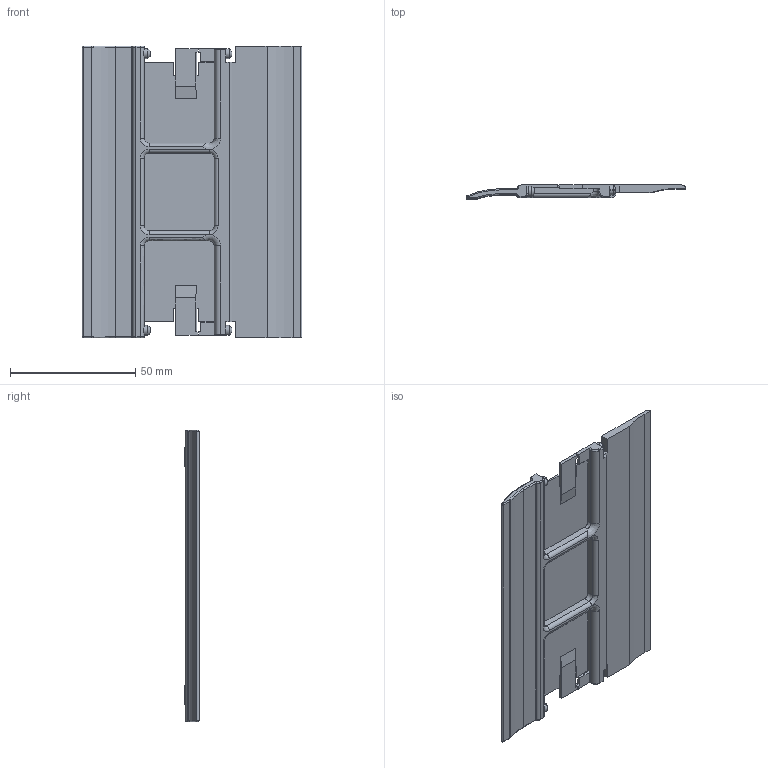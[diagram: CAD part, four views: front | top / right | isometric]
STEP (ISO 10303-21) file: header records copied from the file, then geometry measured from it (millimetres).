
FILE_DESCRIPTION((''),'2;1');
FILE_NAME('C:\Uebbing\PARAMETERKETTEN\KOLIBRI\Kol_65_135_5\Kol_65_135_5 Klappdeckel.stp','2011-11-02T15:13:06',('Uebbing'),(''),'Autodesk Inventor 10','Autodesk Inventor 10','');
FILE_SCHEMA(('AUTOMOTIVE_DESIGN { 1 0 10303 214 1 1 1 1 }'));
Length unit declared in the file: millimetre
Products named in the file (1): Kol_65_135_5 Klappdeckel
Bounding box: 87.8 x 5.6 x 116.6 mm (x, y, z)
Volume: 23284.5 mm3; surface area: 22214 mm2
Topology: 1 solids, 1 shells, 206 faces, 546 edges, 344 vertices
Faces by surface type: bspline 91, plane 63, cylinder 37, torus 12, cone 3
Full cylindrical faces by diameter (mm): 4 x1
Entity records: 7160 total; most frequent: CARTESIAN_POINT 2286, ORIENTED_EDGE 1080, DIRECTION 918, EDGE_CURVE 540, VECTOR 362, LINE 362, VERTEX_POINT 342, AXIS2_PLACEMENT_3D 278
